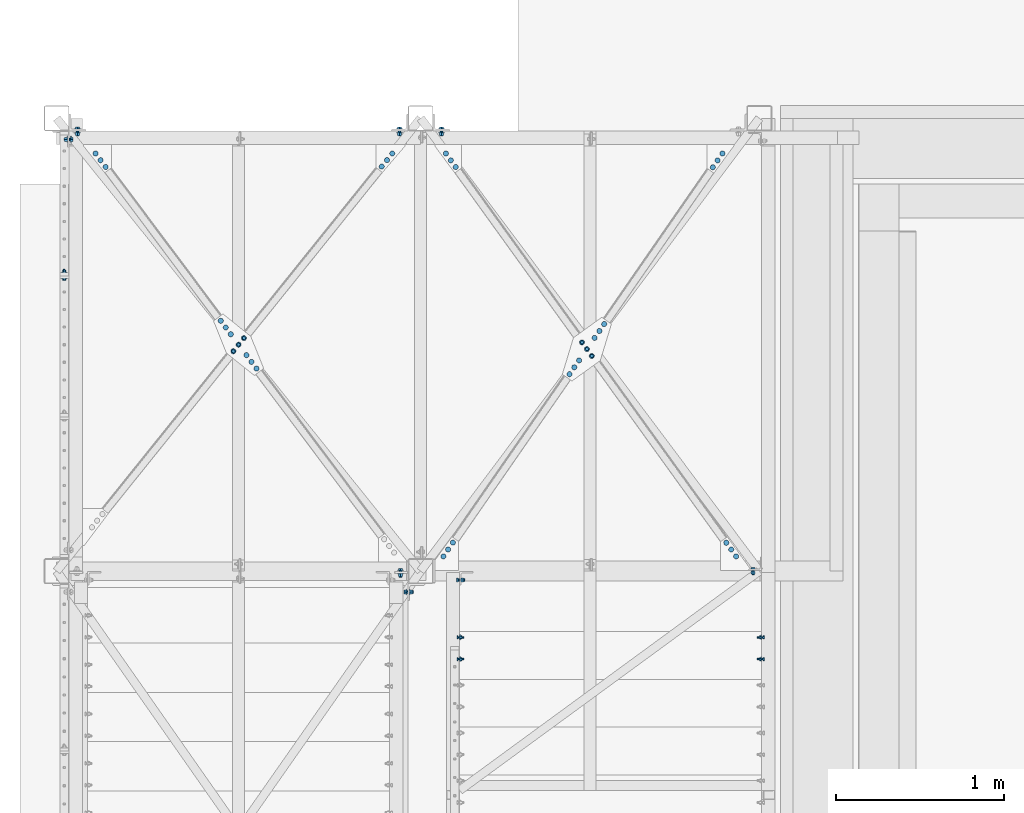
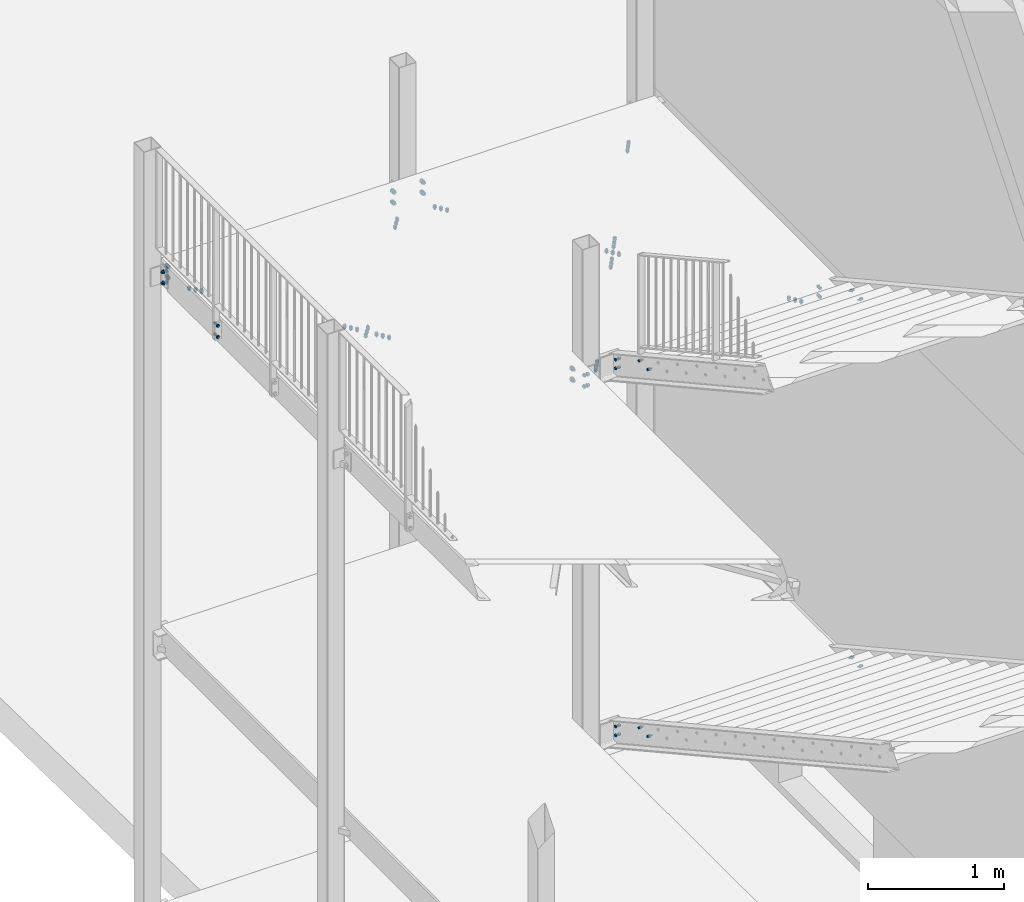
# One storey, part 72 of 78: 26 mechanical fasteners, 19 elements without a shape of their own.
"""IFC2X3 building model written with IfcOpenShell, lengths in millimetres."""

from ifc_helpers import new_model, si_unit, frame, origin_with_axes, origin_2d_with_axis, place, context, subcontext, project, spatial, polyline, circle, outline, extrude, source, transform, mapped, material, type_object, element, aggregate, save


model = new_model("IFC2X3")

# Units and contexts
model_context = context("Model", 3, precision=1e-05, world=origin_with_axes())
body_context = subcontext(model_context, "Body", "Model", "MODEL_VIEW")
ifc_project = project(units=[si_unit("LENGTHUNIT", "METRE", prefix="MILLI"), si_unit("AREAUNIT", "SQUARE_METRE"), si_unit("VOLUMEUNIT", "CUBIC_METRE"), si_unit("MASSUNIT", "GRAM", prefix="KILO"), si_unit("TIMEUNIT", "SECOND"), si_unit("PLANEANGLEUNIT", "RADIAN"), si_unit("SOLIDANGLEUNIT", "STERADIAN"), si_unit("THERMODYNAMICTEMPERATUREUNIT", "DEGREE_CELSIUS"), si_unit("LUMINOUSINTENSITYUNIT", "LUMEN")], contexts=[model_context])

# Site, building, storey
site_placement = place(None, origin_with_axes())
site = spatial("IfcSite", under=ifc_project, at=site_placement, Name="Site", CompositionType="ELEMENT")
building_placement = place(site_placement, origin_with_axes())
building = spatial("IfcBuilding", under=site, at=building_placement, Name="Undefined", CompositionType="ELEMENT")
storey_placement = place(building_placement, origin_with_axes())
storey = spatial("IfcBuildingStorey", under=building, at=storey_placement, Name="Undefined", CompositionType="ELEMENT", Elevation=0.0)

# Assembly, mechanical fastener
assembly_1_placement = place(storey_placement, origin_with_axes())
assembly_1 = element("IfcElementAssembly", 1, at=assembly_1_placement, inside=storey, Name="POTEAU", AssemblyPlace="NOTDEFINED", PredefinedType="RIGID_FRAME")
ifc_material_1 = material(Name="8.8")
mechanical_fastener_type = type_object("IfcMechanicalFastenerType", Name="Bolt assembly")
shared_shape_1 = source(origin_with_axes(), body_context, "Body", "SweptSolid", [
    extrude(circle(Radius=9.0, at=origin_2d_with_axis()), frame((0.0, -7.89999999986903, 0.0), z_axis=(0.0, 1.0, 0.0), x_axis=(1.0, 0.0, 0.0)), (0.0, 0.0, 1.0), 8.0),
    extrude(circle(Radius=9.0, at=origin_2d_with_axis()), frame((0.0, -0.0999999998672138, 0.0), z_axis=(0.0, 1.0, 0.0), x_axis=(1.0, 0.0, 0.0)), (0.0, 0.0, 1.0), 6.3),
    extrude(outline(polyline([(13.85640646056, 0.0), (6.92820323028, 12.0000000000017), (-6.92820323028, 12.0000000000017), (-13.85640646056, 0.0), (-6.92820323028, -12.0000000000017), (6.92820323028, -12.0000000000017), (13.85640646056, 0.0)])), frame((0.0, -17.999999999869, 0.0), z_axis=(0.0, 1.0, 0.0), x_axis=(1.0, 0.0, 0.0)), (0.0, 0.0, 1.0), 10.0),
    extrude(circle(Radius=8.0, at=origin_2d_with_axis()), frame((0.0, -7.99999999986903, 0.0), z_axis=(0.0, 1.0, 0.0), x_axis=(1.0, 0.0, 0.0)), (0.0, 0.0, 1.0), 35.0),
    extrude(outline(polyline([(13.85640646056, 0.0), (6.92820323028, 12.0000000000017), (-6.92820323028, 12.0000000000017), (-13.85640646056, 0.0), (-6.92820323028, -12.0000000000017), (6.92820323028, -12.0000000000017), (13.85640646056, 0.0)])), frame((0.0, 6.19999980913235, 0.0), z_axis=(0.0, 1.0, 0.0), x_axis=(1.0, 0.0, 0.0)), (0.0, 0.0, 1.0), 14.8),
])
mechanical_fastener_1_placement = place(assembly_1_placement, frame((-31182.8600000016, 10111.0999999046, 156600.04), z_axis=(-1.0, 0.0, 0.0), x_axis=(0.0, 0.0, -1.0)))
mechanical_fastener_1 = element("IfcMechanicalFastener", 2, at=mechanical_fastener_1_placement, type_object=mechanical_fastener_type, material=ifc_material_1, Name="Bolt assembly", NominalDiameter=16.0, NominalLength=35.0, context=body_context, shape_type="MappedRepresentation", body=[
    mapped(shared_shape_1, transform((0.0, 0.0, 50.0))),
    mapped(shared_shape_1, transform((80.0, 0.0, 50.0))),
])
aggregate(assembly_1, [mechanical_fastener_1])

assembly_2_placement = place(storey_placement, origin_with_axes())
assembly_2 = element("IfcElementAssembly", 3, at=assembly_2_placement, inside=storey, AssemblyPlace="NOTDEFINED", PredefinedType="RIGID_FRAME")
shared_shape_2 = source(origin_with_axes(), body_context, "Body", "SweptSolid", [
    extrude(circle(Radius=9.0, at=origin_2d_with_axis()), frame((0.0, -9.9, 0.0), z_axis=(0.0, 1.0, 0.0), x_axis=(1.0, 0.0, 0.0)), (0.0, 0.0, 1.0), 10.0),
    extrude(circle(Radius=9.0, at=origin_2d_with_axis()), frame((0.0, -0.0999999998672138, 0.0), z_axis=(0.0, 1.0, 0.0), x_axis=(1.0, 0.0, 0.0)), (0.0, 0.0, 1.0), 9.1),
    extrude(outline(polyline([(13.85640646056, 0.0), (6.92820323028, 12.0000000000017), (-6.92820323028, 12.0000000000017), (-13.85640646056, 0.0), (-6.92820323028, -12.0000000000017), (6.92820323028, -12.0000000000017), (13.85640646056, 0.0)])), frame((0.0, -23.4000000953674, 0.0), z_axis=(0.0, 1.0, 0.0), x_axis=(1.0, 0.0, 0.0)), (0.0, 0.0, 1.0), 10.0),
    extrude(circle(Radius=8.0, at=origin_2d_with_axis()), frame((0.0, -13.4000000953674, 0.0), z_axis=(0.0, 1.0, 0.0), x_axis=(1.0, 0.0, 0.0)), (0.0, 0.0, 1.0), 45.0),
    extrude(circle(Radius=18.5, at=origin_2d_with_axis()), frame((0.0, -13.4000000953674, 0.0), z_axis=(0.0, 1.0, 0.0), x_axis=(1.0, 0.0, 0.0)), (0.0, 0.0, 1.0), 3.4),
    extrude(circle(Radius=18.5, at=origin_2d_with_axis()), frame((0.0, 9.0, 0.0), z_axis=(0.0, 1.0, 0.0), x_axis=(1.0, 0.0, 0.0)), (0.0, 0.0, 1.0), 3.4),
    extrude(outline(polyline([(13.85640646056, 0.0), (6.92820323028, 12.0000000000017), (-6.92820323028, 12.0000000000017), (-13.85640646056, 0.0), (-6.92820323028, -12.0000000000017), (6.92820323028, -12.0000000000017), (13.85640646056, 0.0)])), frame((0.0, 12.4000000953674, 0.0), z_axis=(0.0, 1.0, 0.0), x_axis=(1.0, 0.0, 0.0)), (0.0, 0.0, 1.0), 14.8),
])
mechanical_fastener_2_placement = place(assembly_2_placement, frame((-33091.43, 12733.0, 156610.04), z_axis=(-1.0, 0.0, 0.0), x_axis=(0.0, 0.0, -1.0)))
mechanical_fastener_2 = element("IfcMechanicalFastener", 4, at=mechanical_fastener_2_placement, type_object=mechanical_fastener_type, material=ifc_material_1, Name="Bolt assembly", NominalDiameter=16.0, NominalLength=45.0, context=body_context, shape_type="MappedRepresentation", body=[
    mapped(shared_shape_2, transform((0.0, 0.0, 0.0))),
    mapped(shared_shape_2, transform((100.0, 0.0, 0.0))),
])
aggregate(assembly_2, [mechanical_fastener_2])

# Assembly, mechanical fasteners
assembly_3_placement = place(storey_placement, origin_with_axes())
assembly_3 = element("IfcElementAssembly", 5, at=assembly_3_placement, inside=storey, AssemblyPlace="NOTDEFINED", PredefinedType="RIGID_FRAME")
mechanical_fastener_3_placement = place(assembly_3_placement, frame((-33341.43, 12733.0, 156610.04), z_axis=(-1.0, 0.0, 0.0), x_axis=(0.0, 0.0, -1.0)))
mechanical_fastener_3 = element("IfcMechanicalFastener", 6, at=mechanical_fastener_3_placement, type_object=mechanical_fastener_type, material=ifc_material_1, Name="Bolt assembly", NominalDiameter=16.0, NominalLength=45.0, context=body_context, shape_type="MappedRepresentation", body=[
    mapped(shared_shape_2, transform((0.0, 0.0, 0.0))),
    mapped(shared_shape_2, transform((100.0, 0.0, 0.0))),
])
mechanical_fastener_4_placement = place(assembly_3_placement, frame((-35261.43, 12733.0, 156610.04), z_axis=(-1.0, 0.0, 0.0), x_axis=(0.0, 0.0, -1.0)))
mechanical_fastener_4 = element("IfcMechanicalFastener", 7, at=mechanical_fastener_4_placement, type_object=mechanical_fastener_type, material=ifc_material_1, Name="Bolt assembly", NominalDiameter=16.0, NominalLength=45.0, context=body_context, shape_type="MappedRepresentation", body=[
    mapped(shared_shape_2, transform((0.0, 0.0, 0.0))),
    mapped(shared_shape_2, transform((100.0, 0.0, 0.0))),
])
aggregate(assembly_3, [mechanical_fastener_3, mechanical_fastener_4])

# Assembly, mechanical fastener
assembly_4_placement = place(storey_placement, origin_with_axes())
assembly_4 = element("IfcElementAssembly", 8, at=assembly_4_placement, inside=storey, Name="STAB", AssemblyPlace="NOTDEFINED", PredefinedType="RIGID_FRAME")
shared_shape_3 = source(origin_with_axes(), body_context, "Body", "SweptSolid", [
    extrude(circle(Radius=7.0, at=origin_2d_with_axis()), frame((0.0, -8.1, 0.0), z_axis=(0.0, 1.0, 0.0), x_axis=(1.0, 0.0, 0.0)), (0.0, 0.0, 1.0), 8.1),
    extrude(circle(Radius=7.0, at=origin_2d_with_axis()), frame((0.0, -12.9, 0.0), z_axis=(0.0, 1.0, 0.0), x_axis=(1.0, 0.0, 0.0)), (0.0, 0.0, 1.0), 5.0),
    extrude(outline(polyline([(10.96965511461, 0.0), (5.484827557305, 9.50000000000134), (-5.484827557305, 9.50000000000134), (-10.96965511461, 0.0), (-5.484827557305, -9.50000000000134), (5.484827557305, -9.50000000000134), (10.96965511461, 0.0)])), frame((0.0, -24.2000000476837, 0.0), z_axis=(0.0, 1.0, 0.0), x_axis=(1.0, 0.0, 0.0)), (0.0, 0.0, 1.0), 8.0),
    extrude(circle(Radius=6.0, at=origin_2d_with_axis()), frame((0.0, -16.2000000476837, 0.0), z_axis=(0.0, 1.0, 0.0), x_axis=(1.0, 0.0, 0.0)), (0.0, 0.0, 1.0), 35.0),
    extrude(circle(Radius=15.5, at=origin_2d_with_axis()), frame((0.0, -16.2000000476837, 0.0), z_axis=(0.0, 1.0, 0.0), x_axis=(1.0, 0.0, 0.0)), (0.0, 0.0, 1.0), 3.2),
    extrude(circle(Radius=15.5, at=origin_2d_with_axis()), frame((0.0, 0.0, 0.0), z_axis=(0.0, 1.0, 0.0), x_axis=(1.0, 0.0, 0.0)), (0.0, 0.0, 1.0), 3.2),
    extrude(outline(polyline([(10.39230484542, 0.0), (5.19615242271, 9.00000000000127), (-5.19615242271, 9.00000000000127), (-10.39230484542, 0.0), (-5.19615242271, -9.00000000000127), (5.19615242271, -9.00000000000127), (10.39230484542, 0.0)])), frame((0.0, 3.20000004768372, 0.0), z_axis=(0.0, 1.0, 0.0), x_axis=(1.0, 0.0, 0.0)), (0.0, 0.0, 1.0), 10.8),
])
mechanical_fastener_5_placement = place(assembly_4_placement, frame((-31416.7264176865, 12598.2137284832, 156450.04), z_axis=(0.822082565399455, -0.56936829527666, 0.0), x_axis=(-0.569368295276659, -0.822082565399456, 0.0)))
mechanical_fastener_5 = element("IfcMechanicalFastener", 9, at=mechanical_fastener_5_placement, type_object=mechanical_fastener_type, material=ifc_material_1, Name="Bolt assembly", NominalDiameter=12.0, NominalLength=35.0, context=body_context, shape_type="MappedRepresentation", body=[
    mapped(shared_shape_3, transform((0.0, 0.0, 0.0))),
    mapped(shared_shape_3, transform((49.9999999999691, 0.0, 7.27595761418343e-12))),
    mapped(shared_shape_3, transform((100.0, 0.0, 0.0))),
])

assembly_5_placement = place(storey_placement, origin_with_axes())
assembly_5 = element("IfcElementAssembly", 10, at=assembly_5_placement, inside=storey, Name="STAB", AssemblyPlace="NOTDEFINED", PredefinedType="RIGID_FRAME")
mechanical_fastener_6_placement = place(assembly_5_placement, frame((-33065.2261604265, 12598.1026389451, 156450.04), z_axis=(0.81139181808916, 0.584502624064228, 0.0), x_axis=(0.584502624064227, -0.81139181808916, 0.0)))
mechanical_fastener_6 = element("IfcMechanicalFastener", 11, at=mechanical_fastener_6_placement, type_object=mechanical_fastener_type, material=ifc_material_1, Name="Bolt assembly", NominalDiameter=12.0, NominalLength=35.0, context=body_context, shape_type="MappedRepresentation", body=[
    mapped(shared_shape_3, transform((0.0, 0.0, 0.0))),
    mapped(shared_shape_3, transform((49.9999999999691, 0.0, 7.27595761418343e-12))),
    mapped(shared_shape_3, transform((100.0, 0.0, 0.0))),
])

assembly_6_placement = place(storey_placement, origin_with_axes())
assembly_6 = element("IfcElementAssembly", 12, at=assembly_6_placement, inside=storey, Name="STAB", AssemblyPlace="NOTDEFINED", PredefinedType="RIGID_FRAME")
mechanical_fastener_7_placement = place(assembly_6_placement, frame((-34254.7731540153, 11395.6368890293, 156450.04), z_axis=(0.800711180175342, 0.59905058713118, 0.0), x_axis=(0.59905058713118, -0.800711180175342, 0.0)))
mechanical_fastener_7 = element("IfcMechanicalFastener", 13, at=mechanical_fastener_7_placement, type_object=mechanical_fastener_type, material=ifc_material_1, Name="Bolt assembly", NominalDiameter=12.0, NominalLength=35.0, context=body_context, shape_type="MappedRepresentation", body=[
    mapped(shared_shape_3, transform((0.0, 0.0, 0.0))),
    mapped(shared_shape_3, transform((49.9999999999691, 0.0, 7.27595761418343e-12))),
    mapped(shared_shape_3, transform((100.0, 0.0, 0.0))),
])
aggregate(assembly_6, [mechanical_fastener_7])

assembly_7_placement = place(storey_placement, origin_with_axes())
assembly_7 = element("IfcElementAssembly", 14, at=assembly_7_placement, inside=storey, Name="STAB", AssemblyPlace="NOTDEFINED", PredefinedType="RIGID_FRAME")
mechanical_fastener_8_placement = place(assembly_7_placement, frame((-34348.0868453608, 11520.3631111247, 156450.04), z_axis=(-0.80071118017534, -0.599050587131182, 0.0), x_axis=(-0.599050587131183, 0.800711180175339, 0.0)))
mechanical_fastener_8 = element("IfcMechanicalFastener", 15, at=mechanical_fastener_8_placement, type_object=mechanical_fastener_type, material=ifc_material_1, Name="Bolt assembly", NominalDiameter=12.0, NominalLength=35.0, context=body_context, shape_type="MappedRepresentation", body=[
    mapped(shared_shape_3, transform((0.0, 0.0, 0.0))),
    mapped(shared_shape_3, transform((49.9999999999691, 0.0, 7.27595761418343e-12))),
    mapped(shared_shape_3, transform((100.0, 0.0, 0.0))),
])

# Mechanical fastener
mechanical_fastener_9_placement = place(assembly_4_placement, frame((-32178.344351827, 11498.5514705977, 156450.04), z_axis=(-0.822082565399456, 0.56936829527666, 0.0), x_axis=(0.569368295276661, 0.822082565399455, 0.0)))
mechanical_fastener_9 = element("IfcMechanicalFastener", 16, at=mechanical_fastener_9_placement, type_object=mechanical_fastener_type, material=ifc_material_1, Name="Bolt assembly", NominalDiameter=12.0, NominalLength=35.0, context=body_context, shape_type="MappedRepresentation", body=[
    mapped(shared_shape_3, transform((0.0, 0.0, 0.0))),
    mapped(shared_shape_3, transform((49.9999999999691, 0.0, 7.27595761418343e-12))),
    mapped(shared_shape_3, transform((100.0, 0.0, 0.0))),
])

aggregate(assembly_4, [mechanical_fastener_5, mechanical_fastener_9])

# Assembly, mechanical fasteners
assembly_8_placement = place(storey_placement, origin_with_axes())
assembly_8 = element("IfcElementAssembly", 17, at=assembly_8_placement, inside=storey, Name="STAB", AssemblyPlace="NOTDEFINED", PredefinedType="RIGID_FRAME")
mechanical_fastener_10_placement = place(assembly_8_placement, frame((-32271.2784274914, 11364.3685806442, 156450.04), z_axis=(0.822082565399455, -0.56936829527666, 0.0), x_axis=(-0.569368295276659, -0.822082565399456, 0.0)))
mechanical_fastener_10 = element("IfcMechanicalFastener", 18, at=mechanical_fastener_10_placement, type_object=mechanical_fastener_type, material=ifc_material_1, Name="Bolt assembly", NominalDiameter=12.0, NominalLength=35.0, context=body_context, shape_type="MappedRepresentation", body=[
    mapped(shared_shape_3, transform((0.0, 0.0, 0.0))),
    mapped(shared_shape_3, transform((49.9999999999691, 0.0, 7.27595761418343e-12))),
    mapped(shared_shape_3, transform((100.0, 0.0, 0.0))),
])
mechanical_fastener_11_placement = place(assembly_8_placement, frame((-33080.5606194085, 10195.8862714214, 156450.04), z_axis=(-0.822082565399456, 0.56936829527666, 0.0), x_axis=(0.569368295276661, 0.822082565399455, 0.0)))
mechanical_fastener_11 = element("IfcMechanicalFastener", 19, at=mechanical_fastener_11_placement, type_object=mechanical_fastener_type, material=ifc_material_1, Name="Bolt assembly", NominalDiameter=12.0, NominalLength=35.0, context=body_context, shape_type="MappedRepresentation", body=[
    mapped(shared_shape_3, transform((0.0, 0.0, 0.0))),
    mapped(shared_shape_3, transform((49.9999999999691, 0.0, 7.27595761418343e-12))),
    mapped(shared_shape_3, transform((100.0, 0.0, 0.0))),
])
aggregate(assembly_8, [mechanical_fastener_10, mechanical_fastener_11])

# Mechanical fastener
mechanical_fastener_12_placement = place(assembly_5_placement, frame((-31334.8206929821, 10195.9973609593, 156450.04), z_axis=(-0.811391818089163, -0.584502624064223, 0.0), x_axis=(-0.584502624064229, 0.811391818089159, 0.0)))
mechanical_fastener_12 = element("IfcMechanicalFastener", 20, at=mechanical_fastener_12_placement, type_object=mechanical_fastener_type, material=ifc_material_1, Name="Bolt assembly", NominalDiameter=12.0, NominalLength=35.0, context=body_context, shape_type="MappedRepresentation", body=[
    mapped(shared_shape_3, transform((0.0, 0.0, 0.0))),
    mapped(shared_shape_3, transform((49.9999999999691, 0.0, 7.27595761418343e-12))),
    mapped(shared_shape_3, transform((100.0, 0.0, 0.0))),
])

aggregate(assembly_5, [mechanical_fastener_6, mechanical_fastener_12])

mechanical_fastener_13_placement = place(assembly_7_placement, frame((-35154.3233446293, 12598.0059558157, 156450.04), z_axis=(0.800711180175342, 0.59905058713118, 0.0), x_axis=(0.59905058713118, -0.800711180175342, 0.0)))
mechanical_fastener_13 = element("IfcMechanicalFastener", 21, at=mechanical_fastener_13_placement, type_object=mechanical_fastener_type, material=ifc_material_1, Name="Bolt assembly", NominalDiameter=12.0, NominalLength=35.0, context=body_context, shape_type="MappedRepresentation", body=[
    mapped(shared_shape_3, transform((0.0, 0.0, 0.0))),
    mapped(shared_shape_3, transform((49.9999999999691, 0.0, 7.27595761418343e-12))),
    mapped(shared_shape_3, transform((100.0, 0.0, 0.0))),
])

aggregate(assembly_7, [mechanical_fastener_8, mechanical_fastener_13])

# Assembly, mechanical fastener
assembly_9_placement = place(storey_placement, origin_with_axes())
assembly_9 = element("IfcElementAssembly", 22, at=assembly_9_placement, inside=storey, Name="STAB", AssemblyPlace="NOTDEFINED", PredefinedType="RIGID_FRAME")
mechanical_fastener_14_placement = place(assembly_9_placement, frame((-33385.3265716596, 12597.8521913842, 156450.04), z_axis=(0.779458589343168, -0.626453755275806, 0.0), x_axis=(-0.626453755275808, -0.779458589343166, 0.0)))
mechanical_fastener_14 = element("IfcMechanicalFastener", 23, at=mechanical_fastener_14_placement, type_object=mechanical_fastener_type, material=ifc_material_1, Name="Bolt assembly", NominalDiameter=12.0, NominalLength=35.0, context=body_context, shape_type="MappedRepresentation", body=[
    mapped(shared_shape_3, transform((0.0, 0.0, 0.0))),
    mapped(shared_shape_3, transform((49.9999999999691, 0.0, 7.27595761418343e-12))),
    mapped(shared_shape_3, transform((100.0, 0.0, 0.0))),
])
aggregate(assembly_9, [mechanical_fastener_14])

assembly_10_placement = place(storey_placement, origin_with_axes())
assembly_10 = element("IfcElementAssembly", 24, at=assembly_10_placement, inside=storey, Name="MAIN_COURANTE", AssemblyPlace="NOTDEFINED", PredefinedType="RIGID_FRAME")
ifc_material_2 = material(Name="INOX-A4")
shared_shape_4 = source(origin_with_axes(), body_context, "Body", "SweptSolid", [
    extrude(circle(Radius=7.0, at=origin_2d_with_axis()), frame((0.0, -7.4, 0.0), z_axis=(0.0, 1.0, 0.0), x_axis=(1.0, 0.0, 0.0)), (0.0, 0.0, 1.0), 15.0),
    extrude(circle(Radius=7.0, at=origin_2d_with_axis()), frame((0.0, 7.4, 0.0), z_axis=(0.0, 1.0, 0.0), x_axis=(1.0, 0.0, 0.0)), (0.0, 0.0, 1.0), 20.1),
    extrude(outline(polyline([(10.96965511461, 0.0), (5.484827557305, 9.50000000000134), (-5.484827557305, 9.50000000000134), (-10.96965511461, 0.0), (-5.484827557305, -9.50000000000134), (5.484827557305, -9.50000000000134), (10.96965511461, 0.0)])), frame((0.0, -18.7000000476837, 0.0), z_axis=(0.0, 1.0, 0.0), x_axis=(1.0, 0.0, 0.0)), (0.0, 0.0, 1.0), 8.0),
    extrude(circle(Radius=6.0, at=origin_2d_with_axis()), frame((0.0, -10.7000000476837, 0.0), z_axis=(0.0, 1.0, 0.0), x_axis=(1.0, 0.0, 0.0)), (0.0, 0.0, 1.0), 60.0),
    extrude(circle(Radius=15.5, at=origin_2d_with_axis()), frame((0.0, -10.7000000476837, 0.0), z_axis=(0.0, 1.0, 0.0), x_axis=(1.0, 0.0, 0.0)), (0.0, 0.0, 1.0), 3.2),
    extrude(circle(Radius=15.5, at=origin_2d_with_axis()), frame((0.0, 27.5, 0.0), z_axis=(0.0, 1.0, 0.0), x_axis=(1.0, 0.0, 0.0)), (0.0, 0.0, 1.0), 3.2),
    extrude(outline(polyline([(10.39230484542, 0.0), (5.19615242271, 9.00000000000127), (-5.19615242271, 9.00000000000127), (-10.39230484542, 0.0), (-5.19615242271, -9.00000000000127), (5.19615242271, -9.00000000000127), (10.39230484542, 0.0)])), frame((0.0, 30.7000000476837, 0.0), z_axis=(0.0, 1.0, 0.0), x_axis=(1.0, 0.0, 0.0)), (0.0, 0.0, 1.0), 10.8),
])
mechanical_fastener_15_placement = place(assembly_10_placement, frame((-35341.43, 11860.5, 156585.04), z_axis=(0.0, 0.0, 1.0), x_axis=(1.0, 0.0, 0.0)))
mechanical_fastener_15 = element("IfcMechanicalFastener", 25, at=mechanical_fastener_15_placement, type_object=mechanical_fastener_type, material=ifc_material_2, Name="Bolt assembly", NominalDiameter=12.0, NominalLength=60.0, context=body_context, shape_type="MappedRepresentation", body=[
    mapped(shared_shape_4, transform((0.0, 0.0, -50.0))),
    mapped(shared_shape_4, transform((0.0, 0.0, 50.0))),
])
aggregate(assembly_10, [mechanical_fastener_15])

assembly_11_placement = place(storey_placement, origin_with_axes())
assembly_11 = element("IfcElementAssembly", 26, at=assembly_11_placement, inside=storey, AssemblyPlace="NOTDEFINED", PredefinedType="RIGID_FRAME")
shared_shape_5 = source(origin_with_axes(), body_context, "Body", "SweptSolid", [
    extrude(circle(Radius=9.0, at=origin_2d_with_axis()), frame((0.0, -0.0999999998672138, 0.0), z_axis=(0.0, 1.0, 0.0), x_axis=(1.0, 0.0, 0.0)), (0.0, 0.0, 1.0), 10.1),
    extrude(circle(Radius=9.0, at=origin_2d_with_axis()), frame((0.0, -8.9, 0.0), z_axis=(0.0, 1.0, 0.0), x_axis=(1.0, 0.0, 0.0)), (0.0, 0.0, 1.0), 9.0),
    extrude(outline(polyline([(13.85640646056, 0.0), (6.92820323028, 12.0000000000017), (-6.92820323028, 12.0000000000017), (-13.85640646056, 0.0), (-6.92820323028, -12.0000000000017), (6.92820323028, -12.0000000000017), (13.85640646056, 0.0)])), frame((0.0, -22.4000000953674, 0.0), z_axis=(0.0, 1.0, 0.0), x_axis=(1.0, 0.0, 0.0)), (0.0, 0.0, 1.0), 10.0),
    extrude(circle(Radius=8.0, at=origin_2d_with_axis()), frame((0.0, -12.4000000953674, 0.0), z_axis=(0.0, 1.0, 0.0), x_axis=(1.0, 0.0, 0.0)), (0.0, 0.0, 1.0), 45.0),
    extrude(circle(Radius=18.5, at=origin_2d_with_axis()), frame((0.0, -12.4000000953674, 0.0), z_axis=(0.0, 1.0, 0.0), x_axis=(1.0, 0.0, 0.0)), (0.0, 0.0, 1.0), 3.4),
    extrude(circle(Radius=18.5, at=origin_2d_with_axis()), frame((0.0, 10.0, 0.0), z_axis=(0.0, 1.0, 0.0), x_axis=(1.0, 0.0, 0.0)), (0.0, 0.0, 1.0), 3.4),
    extrude(outline(polyline([(13.85640646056, 0.0), (6.92820323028, 12.0000000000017), (-6.92820323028, 12.0000000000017), (-13.85640646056, 0.0), (-6.92820323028, -12.0000000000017), (6.92820323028, -12.0000000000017), (13.85640646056, 0.0)])), frame((0.0, 13.4000000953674, 0.0), z_axis=(0.0, 1.0, 0.0), x_axis=(1.0, 0.0, 0.0)), (0.0, 0.0, 1.0), 14.8),
])
mechanical_fastener_16_placement = place(assembly_11_placement, frame((-33291.43, 9983.0, 156610.04), z_axis=(0.0, -1.0, 0.0), x_axis=(0.0, 0.0, -1.0)))
mechanical_fastener_16 = element("IfcMechanicalFastener", 27, at=mechanical_fastener_16_placement, type_object=mechanical_fastener_type, material=ifc_material_1, Name="Bolt assembly", NominalDiameter=16.0, NominalLength=45.0, context=body_context, shape_type="MappedRepresentation", body=[
    mapped(shared_shape_5, transform((0.0, 0.0, 0.0))),
    mapped(shared_shape_5, transform((100.0, 0.0, 0.0))),
])
aggregate(assembly_11, [mechanical_fastener_16])

assembly_12_placement = place(storey_placement, origin_with_axes())
assembly_12 = element("IfcElementAssembly", 28, at=assembly_12_placement, inside=storey, AssemblyPlace="NOTDEFINED", PredefinedType="RIGID_FRAME")
mechanical_fastener_17_placement = place(assembly_12_placement, frame((-35311.43, 12683.0, 156610.04), z_axis=(0.0, 1.0, 0.0), x_axis=(0.0, 0.0, -1.0)))
mechanical_fastener_17 = element("IfcMechanicalFastener", 29, at=mechanical_fastener_17_placement, type_object=mechanical_fastener_type, material=ifc_material_1, Name="Bolt assembly", NominalDiameter=16.0, NominalLength=45.0, context=body_context, shape_type="MappedRepresentation", body=[
    mapped(shared_shape_5, transform((0.0, 0.0, 0.0))),
    mapped(shared_shape_5, transform((100.0, 0.0, 0.0))),
])
aggregate(assembly_12, [mechanical_fastener_17])

assembly_13_placement = place(storey_placement, origin_with_axes())
assembly_13 = element("IfcElementAssembly", 30, at=assembly_13_placement, inside=storey, AssemblyPlace="NOTDEFINED", PredefinedType="RIGID_FRAME")
shared_shape_6 = source(origin_with_axes(), body_context, "Body", "SweptSolid", [
    extrude(circle(Radius=7.0, at=origin_2d_with_axis()), frame((0.0, 3.9, 0.0), z_axis=(0.0, 1.0, 0.0), x_axis=(1.0, 0.0, 0.0)), (0.0, 0.0, 1.0), 5.1),
    extrude(circle(Radius=7.0, at=origin_2d_with_axis()), frame((0.0, -3.9, 0.0), z_axis=(0.0, 1.0, 0.0), x_axis=(1.0, 0.0, 0.0)), (0.0, 0.0, 1.0), 8.0),
    extrude(outline(polyline([(10.96965511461, 0.0), (5.484827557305, 9.50000000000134), (-5.484827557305, 9.50000000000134), (-10.96965511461, 0.0), (-5.484827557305, -9.50000000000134), (5.484827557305, -9.50000000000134), (10.96965511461, 0.0)])), frame((0.0, -15.2000000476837, 0.0), z_axis=(0.0, 1.0, 0.0), x_axis=(1.0, 0.0, 0.0)), (0.0, 0.0, 1.0), 8.0),
    extrude(circle(Radius=6.0, at=origin_2d_with_axis()), frame((0.0, -7.20000004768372, 0.0), z_axis=(0.0, 1.0, 0.0), x_axis=(1.0, 0.0, 0.0)), (0.0, 0.0, 1.0), 35.0),
    extrude(circle(Radius=15.5, at=origin_2d_with_axis()), frame((0.0, -7.20000004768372, 0.0), z_axis=(0.0, 1.0, 0.0), x_axis=(1.0, 0.0, 0.0)), (0.0, 0.0, 1.0), 3.2),
    extrude(circle(Radius=15.5, at=origin_2d_with_axis()), frame((0.0, 9.0, 0.0), z_axis=(0.0, 1.0, 0.0), x_axis=(1.0, 0.0, 0.0)), (0.0, 0.0, 1.0), 3.2),
    extrude(outline(polyline([(10.39230484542, 0.0), (5.19615242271, 9.00000000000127), (-5.19615242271, 9.00000000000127), (-10.39230484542, 0.0), (-5.19615242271, -9.00000000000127), (5.19615242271, -9.00000000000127), (10.39230484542, 0.0)])), frame((0.0, 12.2000000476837, 0.0), z_axis=(0.0, 1.0, 0.0), x_axis=(1.0, 0.0, 0.0)), (0.0, 0.0, 1.0), 10.8),
])
mechanical_fastener_18_placement = place(assembly_13_placement, frame((-34270.1073119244, 11496.9729295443, 156454.04), z_axis=(-0.779458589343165, 0.626453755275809, 0.0), x_axis=(-0.626453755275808, -0.779458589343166, 0.0)))
mechanical_fastener_18 = element("IfcMechanicalFastener", 31, at=mechanical_fastener_18_placement, type_object=mechanical_fastener_type, material=ifc_material_1, Name="Bolt assembly", NominalDiameter=12.0, NominalLength=35.0, context=body_context, shape_type="MappedRepresentation", body=[
    mapped(shared_shape_6, transform((0.0, 0.0, 0.0))),
    mapped(shared_shape_6, transform((49.9999999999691, 0.0, 7.27595761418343e-12))),
    mapped(shared_shape_6, transform((100.0, 0.0, 0.0))),
])
aggregate(assembly_13, [mechanical_fastener_18])

assembly_14_placement = place(storey_placement, origin_with_axes())
assembly_14 = element("IfcElementAssembly", 32, at=assembly_14_placement, inside=storey, AssemblyPlace="NOTDEFINED", PredefinedType="RIGID_FRAME")
mechanical_fastener_19_placement = place(assembly_14_placement, frame((-32254.0365208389, 11472.0296165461, 156454.04), z_axis=(-0.811391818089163, -0.584502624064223, 0.0), x_axis=(0.584502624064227, -0.81139181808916, 0.0)))
mechanical_fastener_19 = element("IfcMechanicalFastener", 33, at=mechanical_fastener_19_placement, type_object=mechanical_fastener_type, material=ifc_material_1, Name="Bolt assembly", NominalDiameter=12.0, NominalLength=35.0, context=body_context, shape_type="MappedRepresentation", body=[
    mapped(shared_shape_6, transform((0.0, 0.0, 0.0))),
    mapped(shared_shape_6, transform((49.9999999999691, 0.0, 7.27595761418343e-12))),
    mapped(shared_shape_6, transform((100.0, 0.0, 0.0))),
])
aggregate(assembly_14, [mechanical_fastener_19])

assembly_15_placement = place(storey_placement, origin_with_axes())
assembly_15 = element("IfcElementAssembly", 34, at=assembly_15_placement, inside=storey, AssemblyPlace="NOTDEFINED", PredefinedType="RIGID_FRAME")
shared_shape_7 = source(origin_with_axes(), body_context, "Body", "SweptSolid", [
    extrude(circle(Radius=9.0, at=origin_2d_with_axis()), frame((0.0, 2.8500000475, 0.0), z_axis=(0.0, 1.0, 0.0), x_axis=(1.0, 0.0, 0.0)), (0.0, 0.0, 1.0), 10.1),
    extrude(circle(Radius=9.0, at=origin_2d_with_axis()), frame((0.0, -2.8500000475, 0.0), z_axis=(0.0, 1.0, 0.0), x_axis=(1.0, 0.0, 0.0)), (0.0, 0.0, 1.0), 5.9),
    extrude(outline(polyline([(13.85640646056, 0.0), (6.92820323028, 12.0000000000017), (-6.92820323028, 12.0000000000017), (-13.85640646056, 0.0), (-6.92820323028, -12.0000000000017), (6.92820323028, -12.0000000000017), (13.85640646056, 0.0)])), frame((0.0, -16.3500001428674, 0.0), z_axis=(0.0, 1.0, 0.0), x_axis=(1.0, 0.0, 0.0)), (0.0, 0.0, 1.0), 10.0),
    extrude(circle(Radius=8.0, at=origin_2d_with_axis()), frame((0.0, -6.35000014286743, 0.0), z_axis=(0.0, 1.0, 0.0), x_axis=(1.0, 0.0, 0.0)), (0.0, 0.0, 1.0), 45.0),
    extrude(circle(Radius=18.5, at=origin_2d_with_axis()), frame((0.0, -6.35000014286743, 0.0), z_axis=(0.0, 1.0, 0.0), x_axis=(1.0, 0.0, 0.0)), (0.0, 0.0, 1.0), 3.4),
    extrude(circle(Radius=18.5, at=origin_2d_with_axis()), frame((0.0, 12.9500000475, 0.0), z_axis=(0.0, 1.0, 0.0), x_axis=(1.0, 0.0, 0.0)), (0.0, 0.0, 1.0), 3.4),
    extrude(outline(polyline([(13.85640646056, 0.0), (6.92820323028, 12.0000000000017), (-6.92820323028, 12.0000000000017), (-13.85640646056, 0.0), (-6.92820323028, -12.0000000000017), (6.92820323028, -12.0000000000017), (13.85640646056, 0.0)])), frame((0.0, 16.3500001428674, 0.0), z_axis=(0.0, 1.0, 0.0), x_axis=(1.0, 0.0, 0.0)), (0.0, 0.0, 1.0), 14.8),
])
mechanical_fastener_20_placement = place(assembly_15_placement, frame((-33336.43, 10108.0, 156610.04), z_axis=(-1.0, 0.0, 0.0), x_axis=(0.0, 0.0, -1.0)))
mechanical_fastener_20 = element("IfcMechanicalFastener", 35, at=mechanical_fastener_20_placement, type_object=mechanical_fastener_type, material=ifc_material_1, Name="Bolt assembly", NominalDiameter=16.0, NominalLength=45.0, context=body_context, shape_type="MappedRepresentation", body=[
    mapped(shared_shape_7, transform((0.0, 0.0, 0.0))),
    mapped(shared_shape_7, transform((100.0, 0.0, 0.0))),
])
aggregate(assembly_15, [mechanical_fastener_20])

assembly_16_placement = place(storey_placement, origin_with_axes())
assembly_16 = element("IfcElementAssembly", 36, at=assembly_16_placement, inside=storey, AssemblyPlace="NOTDEFINED", PredefinedType="RIGID_FRAME")
shared_shape_8 = source(origin_with_axes(), body_context, "Body", "SweptSolid", [
    extrude(circle(Radius=9.0, at=origin_2d_with_axis()), frame((0.0, -0.0999999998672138, 0.0), z_axis=(0.0, 1.0, 0.0), x_axis=(1.0, 0.0, 0.0)), (0.0, 0.0, 1.0), 8.1),
    extrude(circle(Radius=9.0, at=origin_2d_with_axis()), frame((0.0, -8.9, 0.0), z_axis=(0.0, 1.0, 0.0), x_axis=(1.0, 0.0, 0.0)), (0.0, 0.0, 1.0), 9.0),
    extrude(outline(polyline([(13.85640646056, 0.0), (6.92820323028, 12.0000000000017), (-6.92820323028, 12.0000000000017), (-13.85640646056, 0.0), (-6.92820323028, -12.0000000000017), (6.92820323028, -12.0000000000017), (13.85640646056, 0.0)])), frame((0.0, -19.0, 0.0), z_axis=(0.0, 1.0, 0.0), x_axis=(1.0, 0.0, 0.0)), (0.0, 0.0, 1.0), 10.0),
    extrude(circle(Radius=8.0, at=origin_2d_with_axis()), frame((0.0, -9.00000002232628, 0.0), z_axis=(0.0, 1.0, 0.0), x_axis=(1.0, 0.0, 0.0)), (0.0, 0.0, 1.0), 40.0),
    extrude(outline(polyline([(13.85640646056, 0.0), (6.92820323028, 12.0000000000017), (-6.92820323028, 12.0000000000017), (-13.85640646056, 0.0), (-6.92820323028, -12.0000000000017), (6.92820323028, -12.0000000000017), (13.85640646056, 0.0)])), frame((0.0, 8.0, 0.0), z_axis=(0.0, 1.0, 0.0), x_axis=(1.0, 0.0, 0.0)), (0.0, 0.0, 1.0), 14.8),
])
mechanical_fastener_21_placement = place(assembly_16_placement, frame((-32982.8600000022, 10104.9000000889, 153300.040000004), z_axis=(0.0, -1.0, 0.0), x_axis=(0.0, 0.0, -1.0)))
mechanical_fastener_21 = element("IfcMechanicalFastener", 37, at=mechanical_fastener_21_placement, type_object=mechanical_fastener_type, material=ifc_material_1, Name="Bolt assembly", NominalDiameter=16.0, NominalLength=40.0, context=body_context, shape_type="MappedRepresentation", body=[
    mapped(shared_shape_8, transform((0.0, 0.0, 50.0))),
    mapped(shared_shape_8, transform((80.0, 0.0, 50.0))),
])

assembly_17_placement = place(storey_placement, origin_with_axes())
assembly_17 = element("IfcElementAssembly", 38, at=assembly_17_placement, inside=storey, AssemblyPlace="NOTDEFINED", PredefinedType="RIGID_FRAME")
mechanical_fastener_22_placement = place(assembly_17_placement, frame((-32982.8600000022, 10104.9000000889, 156600.040000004), z_axis=(0.0, -1.0, 0.0), x_axis=(0.0, 0.0, -1.0)))
mechanical_fastener_22 = element("IfcMechanicalFastener", 39, at=mechanical_fastener_22_placement, type_object=mechanical_fastener_type, material=ifc_material_1, Name="Bolt assembly", NominalDiameter=16.0, NominalLength=40.0, context=body_context, shape_type="MappedRepresentation", body=[
    mapped(shared_shape_8, transform((0.0, 0.0, 50.0))),
    mapped(shared_shape_8, transform((80.0, 0.0, 50.0))),
])

assembly_18_placement = place(storey_placement, origin_with_axes())
assembly_18 = element("IfcElementAssembly", 40, at=assembly_18_placement, inside=storey, AssemblyPlace="NOTDEFINED", PredefinedType="RIGID_FRAME")
ifc_material_3 = material(Name="6.8")
shared_shape_9 = source(origin_with_axes(), body_context, "Body", "SweptSolid", [
    extrude(circle(Radius=6.0, at=origin_2d_with_axis()), frame((0.0, -9.00000002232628, 0.0), z_axis=(0.0, 1.0, 0.0), x_axis=(1.0, 0.0, 0.0)), (0.0, 0.0, 1.0), 9.1),
    extrude(outline(polyline([(10.96965511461, 0.0), (5.484827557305, 9.50000000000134), (-5.484827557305, 9.50000000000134), (-10.96965511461, 0.0), (-5.484827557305, -9.50000000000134), (5.484827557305, -9.50000000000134), (10.96965511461, 0.0)])), frame((0.0, -17.0000000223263, 0.0), z_axis=(0.0, 1.0, 0.0), x_axis=(1.0, 0.0, 0.0)), (0.0, 0.0, 1.0), 8.0),
    extrude(circle(Radius=6.0, at=origin_2d_with_axis()), frame((0.0, -9.00000002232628, 0.0), z_axis=(0.0, 1.0, 0.0), x_axis=(1.0, 0.0, 0.0)), (0.0, 0.0, 1.0), 35.0),
    extrude(circle(Radius=15.5, at=origin_2d_with_axis()), frame((0.0, 0.0, 0.0), z_axis=(0.0, 1.0, 0.0), x_axis=(1.0, 0.0, 0.0)), (0.0, 0.0, 1.0), 3.2),
    extrude(outline(polyline([(10.39230484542, 0.0), (5.19615242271, 9.00000000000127), (-5.19615242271, 9.00000000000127), (-10.39230484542, 0.0), (-5.19615242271, -9.00000000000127), (5.19615242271, -9.00000000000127), (10.39230484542, 0.0)])), frame((0.0, 3.20000004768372, 0.0), z_axis=(0.0, 1.0, 0.0), x_axis=(1.0, 0.0, 0.0)), (0.0, 0.0, 1.0), 10.8),
])
mechanical_fastener_23_placement = place(assembly_18_placement, frame((-31182.8599999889, 9712.99999987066, 153495.04000029), z_axis=(0.0, 0.0, -1.0), x_axis=(0.0, -1.0, 0.0)))
mechanical_fastener_23 = element("IfcMechanicalFastener", 41, at=mechanical_fastener_23_placement, type_object=mechanical_fastener_type, material=ifc_material_3, Name="Bolt assembly", NominalDiameter=12.0, NominalLength=35.0, context=body_context, shape_type="MappedRepresentation", body=[
    mapped(shared_shape_9, transform((0.0, 0.0, 0.0))),
    mapped(shared_shape_9, transform((130.0, 0.0, 0.0))),
])
aggregate(assembly_18, [mechanical_fastener_23])

# Mechanical fastener
mechanical_fastener_24_placement = place(assembly_16_placement, frame((-32982.8599999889, 9712.99999987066, 153495.040000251), z_axis=(0.0, 0.0, 1.0), x_axis=(0.0, -1.0, 0.0)))
mechanical_fastener_24 = element("IfcMechanicalFastener", 42, at=mechanical_fastener_24_placement, type_object=mechanical_fastener_type, material=ifc_material_3, Name="Bolt assembly", NominalDiameter=12.0, NominalLength=35.0, context=body_context, shape_type="MappedRepresentation", body=[
    mapped(shared_shape_9, transform((0.0, 0.0, 0.0))),
    mapped(shared_shape_9, transform((130.0, 0.0, 0.0))),
])

aggregate(assembly_16, [mechanical_fastener_21, mechanical_fastener_24])

# Assembly, mechanical fastener
assembly_19_placement = place(storey_placement, origin_with_axes())
assembly_19 = element("IfcElementAssembly", 43, at=assembly_19_placement, inside=storey, AssemblyPlace="NOTDEFINED", PredefinedType="RIGID_FRAME")
mechanical_fastener_25_placement = place(assembly_19_placement, frame((-31182.8599999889, 9712.99999987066, 156795.04000029), z_axis=(0.0, 0.0, -1.0), x_axis=(0.0, -1.0, 0.0)))
mechanical_fastener_25 = element("IfcMechanicalFastener", 44, at=mechanical_fastener_25_placement, type_object=mechanical_fastener_type, material=ifc_material_3, Name="Bolt assembly", NominalDiameter=12.0, NominalLength=35.0, context=body_context, shape_type="MappedRepresentation", body=[
    mapped(shared_shape_9, transform((0.0, 0.0, 0.0))),
    mapped(shared_shape_9, transform((130.0, 0.0, 0.0))),
])
aggregate(assembly_19, [mechanical_fastener_25])

# Mechanical fastener
mechanical_fastener_26_placement = place(assembly_17_placement, frame((-32982.8599999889, 9712.99999987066, 156795.040000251), z_axis=(0.0, 0.0, 1.0), x_axis=(0.0, -1.0, 0.0)))
mechanical_fastener_26 = element("IfcMechanicalFastener", 45, at=mechanical_fastener_26_placement, type_object=mechanical_fastener_type, material=ifc_material_3, Name="Bolt assembly", NominalDiameter=12.0, NominalLength=35.0, context=body_context, shape_type="MappedRepresentation", body=[
    mapped(shared_shape_9, transform((0.0, 0.0, 0.0))),
    mapped(shared_shape_9, transform((130.0, 0.0, 0.0))),
])

aggregate(assembly_17, [mechanical_fastener_22, mechanical_fastener_26])

save(model, "model.ifc")
